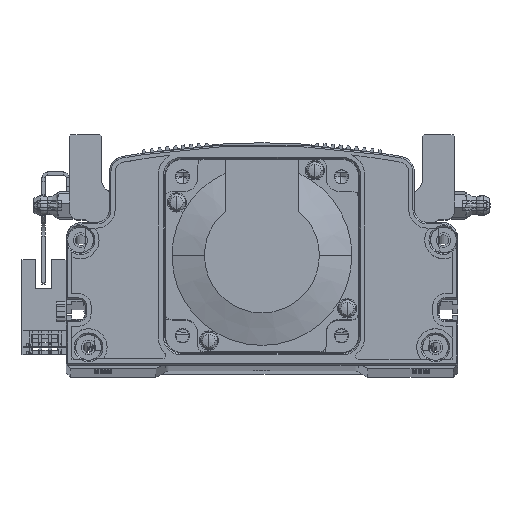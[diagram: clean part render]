
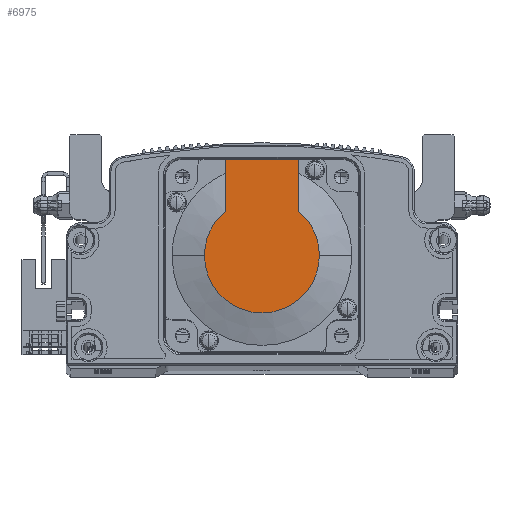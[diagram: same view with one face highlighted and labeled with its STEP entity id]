
A CAD part, top view. The second image highlights one B-rep face of the part: STEP entity #6975.
In plain terms, the highlighted planar face has unit normal (0, 0, 1) as drawn and (-1, 0, 0) by its records, which use the part's own axes.
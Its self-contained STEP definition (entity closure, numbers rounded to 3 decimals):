
#4517 = ORIENTED_EDGE ( 'NONE', *, *, #88857, .T. ) ;
#4773 = PLANE ( 'NONE',  #29021 ) ;
#5947 = DIRECTION ( 'NONE',  ( 0., -1., 0. ) ) ;
#6975 = ADVANCED_FACE ( 'NONE', ( #46237 ), #4773, .T. ) ;
#11144 = VECTOR ( 'NONE', #5947, 1000. ) ;
#11239 = DIRECTION ( 'NONE',  ( 0., 0., -1. ) ) ;
#11565 = VERTEX_POINT ( 'NONE', #70903 ) ;
#13874 = DIRECTION ( 'NONE',  ( 0., 0., -1. ) ) ;
#14565 = VECTOR ( 'NONE', #46402, 1000. ) ;
#15552 = VERTEX_POINT ( 'NONE', #19248 ) ;
#15611 = AXIS2_PLACEMENT_3D ( 'NONE', #41960, #78244, #41069 ) ;
#16090 = CARTESIAN_POINT ( 'NONE',  ( -118.5, 30., 11.45 ) ) ;
#19248 = CARTESIAN_POINT ( 'NONE',  ( -118.5, 0., -17.881 ) ) ;
#29021 = AXIS2_PLACEMENT_3D ( 'NONE', #52680, #52980, #87700 ) ;
#29049 = CARTESIAN_POINT ( 'NONE',  ( -118.5, 30., 25. ) ) ;
#30665 = AXIS2_PLACEMENT_3D ( 'NONE', #76624, #41578, #13874 ) ;
#31214 = EDGE_CURVE ( 'NONE', #15552, #78441, #69854, .T. ) ;
#33233 = CARTESIAN_POINT ( 'NONE',  ( -118.5, 0., 0. ) ) ;
#34030 = VECTOR ( 'NONE', #78087, 1000. ) ;
#34285 = CIRCLE ( 'NONE', #30665, 17.881 ) ;
#37449 = EDGE_CURVE ( 'NONE', #11565, #53496, #75446, .T. ) ;
#39843 = CARTESIAN_POINT ( 'NONE',  ( -118.5, 13.735, 11.45 ) ) ;
#41069 = DIRECTION ( 'NONE',  ( 0., 0., -1. ) ) ;
#41578 = DIRECTION ( 'NONE',  ( -1., 0., 0. ) ) ;
#41960 = CARTESIAN_POINT ( 'NONE',  ( -118.5, 0., 0. ) ) ;
#42473 = VERTEX_POINT ( 'NONE', #39843 ) ;
#42810 = LINE ( 'NONE', #75470, #11144 ) ;
#42898 = AXIS2_PLACEMENT_3D ( 'NONE', #33233, #67314, #11239 ) ;
#43784 = ORIENTED_EDGE ( 'NONE', *, *, #77654, .T. ) ;
#46237 = FACE_OUTER_BOUND ( 'NONE', #68618, .T. ) ;
#46402 = DIRECTION ( 'NONE',  ( 0., -1., 0. ) ) ;
#47233 = LINE ( 'NONE', #66236, #14565 ) ;
#52680 = CARTESIAN_POINT ( 'NONE',  ( -118.5, -8.941, 0. ) ) ;
#52980 = DIRECTION ( 'NONE',  ( -1., 0., 0. ) ) ;
#53470 = EDGE_CURVE ( 'NONE', #78441, #42473, #69326, .T. ) ;
#53496 = VERTEX_POINT ( 'NONE', #16090 ) ;
#53807 = ORIENTED_EDGE ( 'NONE', *, *, #53470, .T. ) ;
#55898 = VERTEX_POINT ( 'NONE', #57815 ) ;
#57815 = CARTESIAN_POINT ( 'NONE',  ( -118.5, 13.735, -11.45 ) ) ;
#61513 = ORIENTED_EDGE ( 'NONE', *, *, #62268, .F. ) ;
#62268 = EDGE_CURVE ( 'NONE', #53496, #42473, #47233, .T. ) ;
#66236 = CARTESIAN_POINT ( 'NONE',  ( -118.5, 0., 11.45 ) ) ;
#67314 = DIRECTION ( 'NONE',  ( -1., 0., 0. ) ) ;
#68618 = EDGE_LOOP ( 'NONE', ( #43784, #4517, #78553, #53807, #61513, #68742 ) ) ;
#68742 = ORIENTED_EDGE ( 'NONE', *, *, #37449, .F. ) ;
#69326 = CIRCLE ( 'NONE', #15611, 17.881 ) ;
#69854 = CIRCLE ( 'NONE', #42898, 17.881 ) ;
#70903 = CARTESIAN_POINT ( 'NONE',  ( -118.5, 30., -11.45 ) ) ;
#75446 = LINE ( 'NONE', #29049, #34030 ) ;
#75470 = CARTESIAN_POINT ( 'NONE',  ( -118.5, -8.941, -11.45 ) ) ;
#76624 = CARTESIAN_POINT ( 'NONE',  ( -118.5, 0., 0. ) ) ;
#77654 = EDGE_CURVE ( 'NONE', #11565, #55898, #42810, .T. ) ;
#78087 = DIRECTION ( 'NONE',  ( 0., 0., 1. ) ) ;
#78244 = DIRECTION ( 'NONE',  ( -1., 0., 0. ) ) ;
#78441 = VERTEX_POINT ( 'NONE', #81797 ) ;
#78553 = ORIENTED_EDGE ( 'NONE', *, *, #31214, .T. ) ;
#81797 = CARTESIAN_POINT ( 'NONE',  ( -118.5, 0., 17.881 ) ) ;
#87700 = DIRECTION ( 'NONE',  ( 0., 0., 1. ) ) ;
#88857 = EDGE_CURVE ( 'NONE', #55898, #15552, #34285, .T. ) ;
